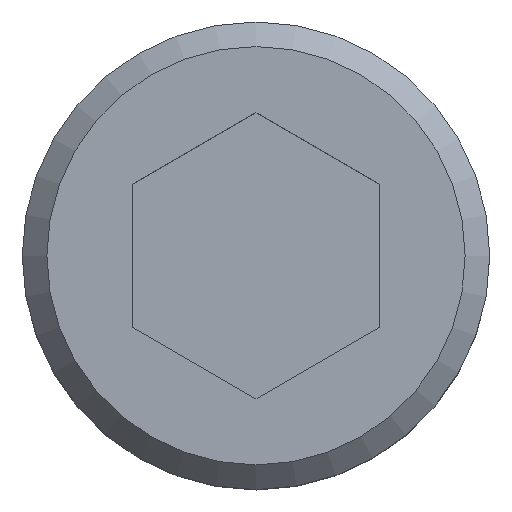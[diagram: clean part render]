
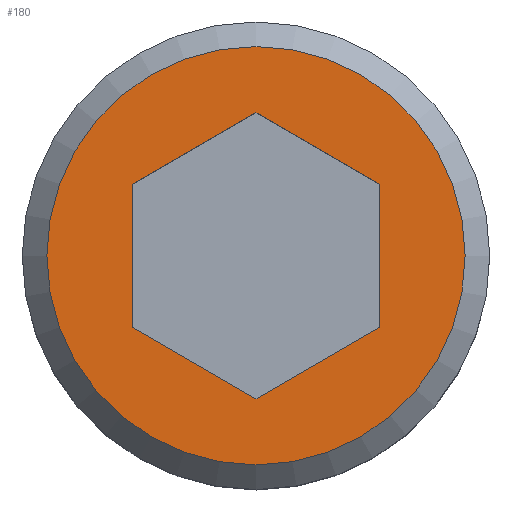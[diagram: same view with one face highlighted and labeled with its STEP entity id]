
A CAD part, top view. The second image highlights one B-rep face of the part: STEP entity #180.
In plain terms, the highlighted planar face has unit normal (0, 0, 1).
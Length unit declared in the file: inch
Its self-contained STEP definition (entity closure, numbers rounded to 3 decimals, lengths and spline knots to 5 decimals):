
#79=CARTESIAN_POINT('',(0.119,0.,0.162));
#80=VERTEX_POINT('',#79);
#81=CARTESIAN_POINT('',(0.0,0.0,0.162));
#82=DIRECTION('',(0.0,0.0,-1.0));
#83=DIRECTION('',(-1.0,0.0,0.0));
#84=AXIS2_PLACEMENT_3D('',#81,#82,#83);
#85=CIRCLE('',#84,0.119);
#86=EDGE_CURVE('',#80,#80,#85,.T.);
#122=CARTESIAN_POINT('',(0.0,0.0,0.162));
#123=DIRECTION('',(0.0,0.0,-1.0));
#124=DIRECTION('',(-1.0,0.0,0.0));
#125=AXIS2_PLACEMENT_3D('',#122,#123,#124);
#126=PLANE('',#125);
#127=ORIENTED_EDGE('',*,*,#86,.F.);
#128=EDGE_LOOP('',(#127));
#129=FACE_OUTER_BOUND('',#128,.T.);
#130=CARTESIAN_POINT('',(-0.0705,-0.0407,0.162));
#131=VERTEX_POINT('',#130);
#132=CARTESIAN_POINT('',(-0.0705,0.0407,0.162));
#133=VERTEX_POINT('',#132);
#134=CARTESIAN_POINT('',(-0.0705,-0.0407,0.162));
#135=DIRECTION('',(0.0,1.0,0.0));
#136=VECTOR('',#135,0.08141);
#137=LINE('',#134,#136);
#138=EDGE_CURVE('',#131,#133,#137,.T.);
#139=ORIENTED_EDGE('',*,*,#138,.T.);
#140=CARTESIAN_POINT('',(0.,0.08141,0.162));
#141=VERTEX_POINT('',#140);
#142=CARTESIAN_POINT('',(-0.0705,0.0407,0.162));
#143=DIRECTION('',(0.866,0.5,0.0));
#144=VECTOR('',#143,0.08141);
#145=LINE('',#142,#144);
#146=EDGE_CURVE('',#133,#141,#145,.T.);
#147=ORIENTED_EDGE('',*,*,#146,.T.);
#148=CARTESIAN_POINT('',(0.0705,0.0407,0.162));
#149=VERTEX_POINT('',#148);
#150=CARTESIAN_POINT('',(0.,0.08141,0.162));
#151=DIRECTION('',(0.866,-0.5,0.0));
#152=VECTOR('',#151,0.08141);
#153=LINE('',#150,#152);
#154=EDGE_CURVE('',#141,#149,#153,.T.);
#155=ORIENTED_EDGE('',*,*,#154,.T.);
#156=CARTESIAN_POINT('',(0.0705,-0.0407,0.162));
#157=VERTEX_POINT('',#156);
#158=CARTESIAN_POINT('',(0.0705,0.0407,0.162));
#159=DIRECTION('',(0.0,-1.0,0.0));
#160=VECTOR('',#159,0.08141);
#161=LINE('',#158,#160);
#162=EDGE_CURVE('',#149,#157,#161,.T.);
#163=ORIENTED_EDGE('',*,*,#162,.T.);
#164=CARTESIAN_POINT('',(0.,-0.08141,0.162));
#165=VERTEX_POINT('',#164);
#166=CARTESIAN_POINT('',(0.0705,-0.0407,0.162));
#167=DIRECTION('',(-0.866,-0.5,0.0));
#168=VECTOR('',#167,0.08141);
#169=LINE('',#166,#168);
#170=EDGE_CURVE('',#157,#165,#169,.T.);
#171=ORIENTED_EDGE('',*,*,#170,.T.);
#172=CARTESIAN_POINT('',(0.,-0.08141,0.162));
#173=DIRECTION('',(-0.866,0.5,0.0));
#174=VECTOR('',#173,0.08141);
#175=LINE('',#172,#174);
#176=EDGE_CURVE('',#165,#131,#175,.T.);
#177=ORIENTED_EDGE('',*,*,#176,.T.);
#178=EDGE_LOOP('',(#139,#147,#155,#163,#171,#177));
#179=FACE_BOUND('',#178,.T.);
#180=ADVANCED_FACE('',(#129,#179),#126,.F.);
